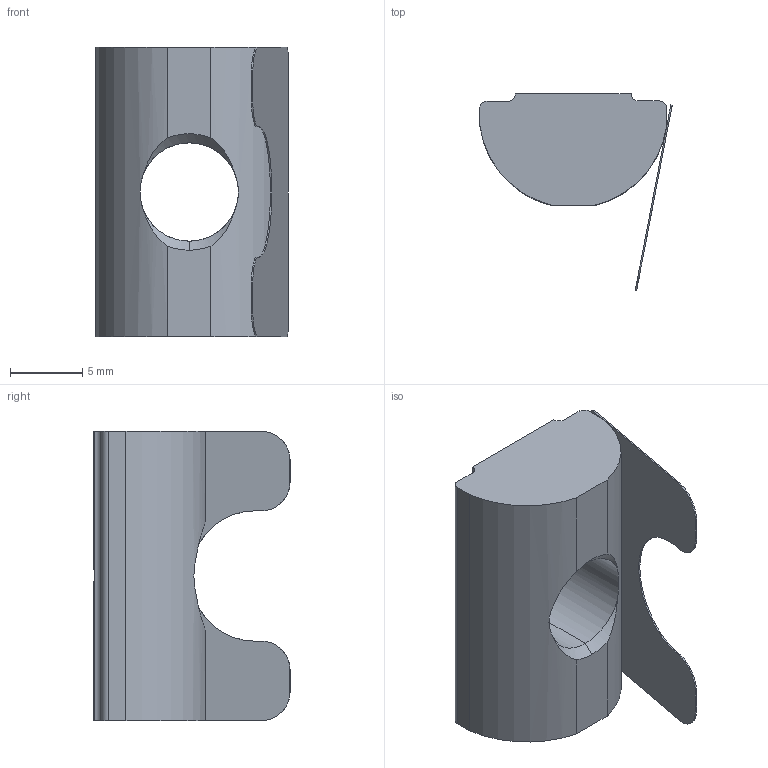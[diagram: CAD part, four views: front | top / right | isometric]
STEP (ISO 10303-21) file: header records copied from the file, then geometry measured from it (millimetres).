
FILE_DESCRIPTION (( 'STEP AP214' ), '1' );
FILE_NAME ('1.2124 T-uramutteri M6 jousella.STEP', '2024-06-26T10:37:21', ( '' ), ( '' ), 'SwSTEP 2.0', 'SolidWorks 2024', '' );
FILE_SCHEMA (( 'AUTOMOTIVE_DESIGN' ));
Length unit declared in the file: millimetre
Products named in the file (1): 1.2124 T-uramutteri M6 jousella
Bounding box: 13.29 x 13.56 x 20 mm (x, y, z)
Volume: 1364 mm3; surface area: 1350 mm2
Topology: 2 solids, 2 shells, 41 faces, 114 edges, 75 vertices
Faces by surface type: plane 21, cylinder 15, cone 5
Entity records: 1453 total; most frequent: CARTESIAN_POINT 345, ORIENTED_EDGE 228, DIRECTION 227, EDGE_CURVE 114, AXIS2_PLACEMENT_3D 81, VERTEX_POINT 75, VECTOR 65, LINE 65
